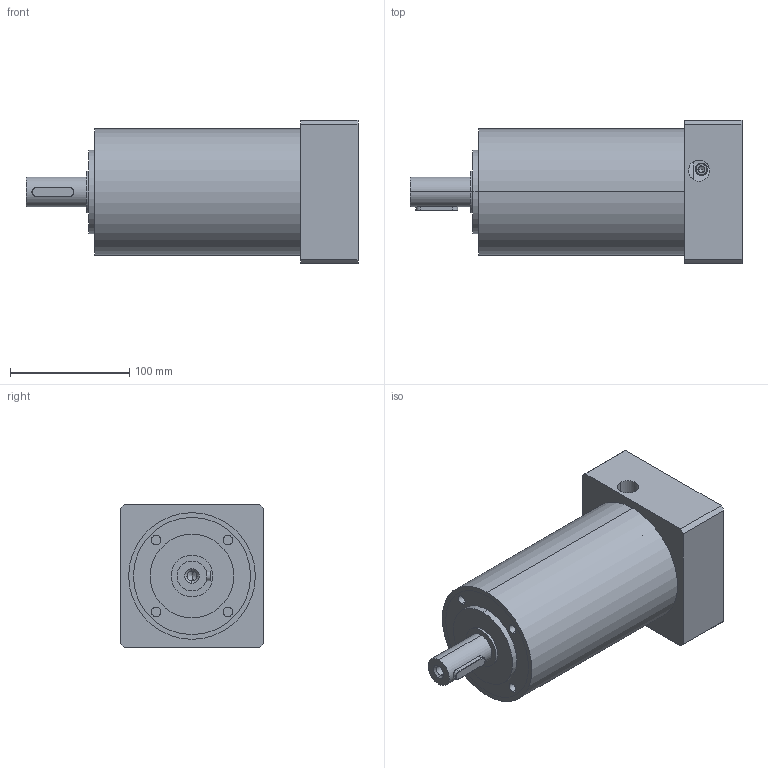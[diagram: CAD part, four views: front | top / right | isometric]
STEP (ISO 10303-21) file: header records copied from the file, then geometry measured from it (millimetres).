
FILE_DESCRIPTION (( 'STEP AP214' ), '1' );
FILE_NAME ('HTRG10N___MHS40224M_3stage_10.STEP', '2019-10-13T23:08:46', ( '' ), ( '' ), 'SwSTEP 2.0', 'SolidWorks 2018', '' );
FILE_SCHEMA (( 'AUTOMOTIVE_DESIGN' ));
Length unit declared in the file: millimetre
Products named in the file (1): HTRG10N___MHS40224M_3stage_10
Bounding box: 278 x 120 x 120 mm (x, y, z)
Volume: 2046286.4 mm3; surface area: 197819.3 mm2
Topology: 9 solids, 9 shells, 176 faces, 387 edges, 246 vertices
Faces by surface type: cylinder 87, plane 60, cone 25, bspline 4
Entity records: 5433 total; most frequent: CARTESIAN_POINT 1279, DIRECTION 907, ORIENTED_EDGE 766, EDGE_CURVE 383, AXIS2_PLACEMENT_3D 376, VERTEX_POINT 246, EDGE_LOOP 213, CIRCLE 203
